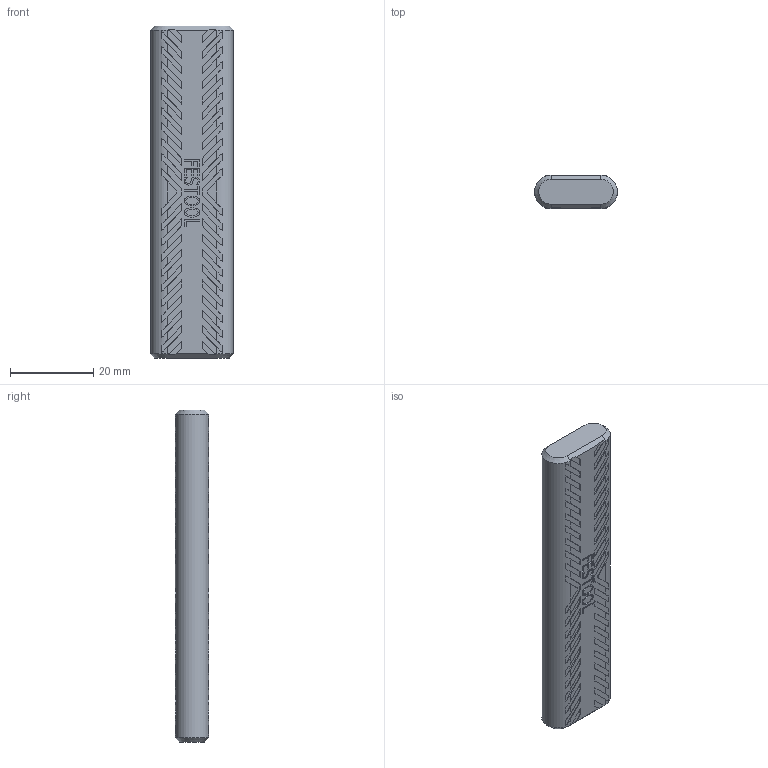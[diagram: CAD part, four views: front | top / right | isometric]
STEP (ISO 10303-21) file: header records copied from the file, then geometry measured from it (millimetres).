
FILE_DESCRIPTION(('Creo Elements/Direct Modeling STEP Export'),'2;1');
FILE_NAME('Domino_8x80.stp','2024-01-19T 8:05:46',(''),(''),'Creo Elements/Direct Modeling STEP processor for AP214 (Solid Model)','Creo Elements/Direct Modeling 20.5A 14-Oct-2022 (C) Parametric Technology GmbH','');
FILE_SCHEMA(('AUTOMOTIVE_DESIGN { 1 0 10303 214 1 1 1 1 }'));
Length unit declared in the file: millimetre
Products named in the file (1): 8x80_00479326
Bounding box: 20 x 8 x 80 mm (x, y, z)
Volume: 11519.9 mm3; surface area: 4448.9 mm2
Topology: 1 solids, 1 shells, 956 faces, 2773 edges, 1846 vertices
Faces by surface type: plane 950, cone 4, cylinder 2
Entity records: 29877 total; most frequent: ORIENTED_EDGE 5546, CARTESIAN_POINT 5318, DIRECTION 4503, EDGE_CURVE 2773, VECTOR 2441, LINE 2441, VERTEX_POINT 1846, AXIS2_PLACEMENT_3D 1031
